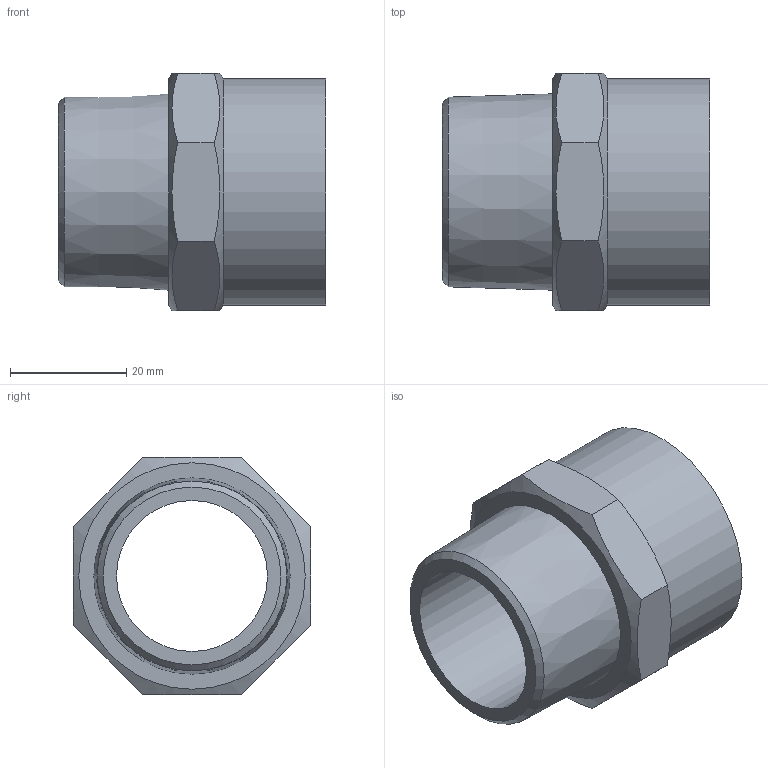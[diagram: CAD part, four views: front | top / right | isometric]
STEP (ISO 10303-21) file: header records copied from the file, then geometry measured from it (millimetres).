
FILE_DESCRIPTION((''),'2;1');
FILE_NAME('\\Lg50001\Groups\SANHA Legnica\Engineering\Public\RYSUNKI\SANHA POLSKA\4243G\step\14243_35-1(2).stp','2008-08-26T09:01:27',('pajchrowski'),(''),'Autodesk Inventor 2008','Autodesk Inventor 2008','');
FILE_SCHEMA(('AUTOMOTIVE_DESIGN { 1 0 10303 214 1 1 1 1 }'));
Length unit declared in the file: millimetre
Products named in the file (1): 14243_35-1(2)
Bounding box: 46 x 40.9 x 40.9 mm (x, y, z)
Volume: 15238.1 mm3; surface area: 11114.4 mm2
Topology: 1 solids, 1 shells, 20 faces, 45 edges, 29 vertices
Faces by surface type: plane 12, cone 5, cylinder 3
Full cylindrical faces by diameter (mm): 26 x1, 35.13 x1, 39 x1
Entity records: 512 total; most frequent: CARTESIAN_POINT 115, DIRECTION 72, ORIENTED_EDGE 70, EDGE_CURVE 35, AXIS2_PLACEMENT_3D 32, EDGE_LOOP 32, VERTEX_POINT 27, FACE_OUTER_BOUND 20
